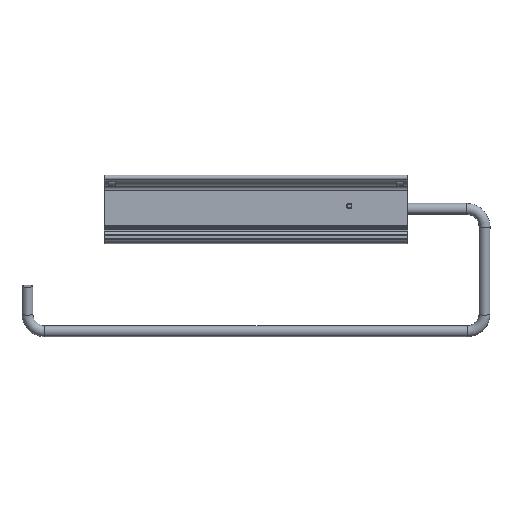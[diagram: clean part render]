
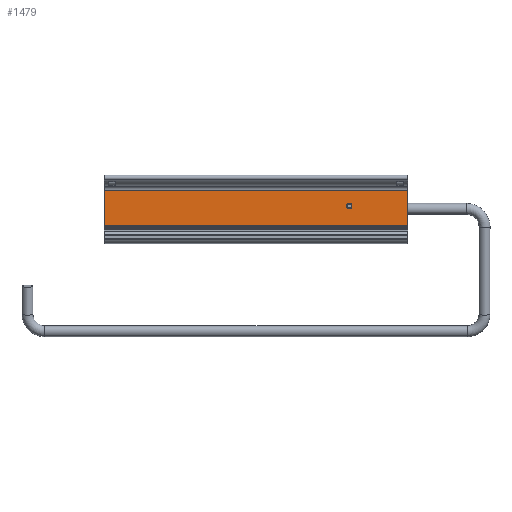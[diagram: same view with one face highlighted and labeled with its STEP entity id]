
A CAD part, left-side view. The second image highlights one B-rep face of the part: STEP entity #1479.
In plain terms, the highlighted planar face has unit normal (-1, 0, 0).
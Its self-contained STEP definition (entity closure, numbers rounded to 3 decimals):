
#55=PLANE('',#1583);
#102=LINE('',#2140,#187);
#103=LINE('',#2146,#188);
#104=LINE('',#2148,#189);
#105=LINE('',#2150,#190);
#187=VECTOR('',#1755,1000.);
#188=VECTOR('',#1762,1000.);
#189=VECTOR('',#1763,1000.);
#190=VECTOR('',#1764,1000.);
#277=CIRCLE('',#1584,1.23);
#359=ORIENTED_EDGE('',*,*,#658,.T.);
#360=ORIENTED_EDGE('',*,*,#659,.T.);
#361=ORIENTED_EDGE('',*,*,#660,.F.);
#362=ORIENTED_EDGE('',*,*,#661,.F.);
#363=ORIENTED_EDGE('',*,*,#656,.T.);
#656=EDGE_CURVE('',#805,#804,#102,.T.);
#658=EDGE_CURVE('',#806,#806,#277,.T.);
#659=EDGE_CURVE('',#804,#807,#103,.T.);
#660=EDGE_CURVE('',#808,#807,#104,.T.);
#661=EDGE_CURVE('',#805,#808,#105,.T.);
#804=VERTEX_POINT('',#2139);
#805=VERTEX_POINT('',#2141);
#806=VERTEX_POINT('',#2145);
#807=VERTEX_POINT('',#2147);
#808=VERTEX_POINT('',#2149);
#896=EDGE_LOOP('',(#359));
#897=EDGE_LOOP('',(#360,#361,#362,#363));
#985=FACE_BOUND('',#896,.T.);
#986=FACE_BOUND('',#897,.T.);
#1479=ADVANCED_FACE('',(#985,#986),#55,.F.);
#1583=AXIS2_PLACEMENT_3D('',#2143,#1758,#1759);
#1584=AXIS2_PLACEMENT_3D('',#2144,#1760,#1761);
#1755=DIRECTION('',(0.,1.,0.));
#1758=DIRECTION('',(1.,0.,0.));
#1759=DIRECTION('',(0.,0.,-1.));
#1760=DIRECTION('',(1.,0.,0.));
#1761=DIRECTION('',(0.,0.,1.));
#1762=DIRECTION('',(0.,0.,-1.));
#1763=DIRECTION('',(0.,1.,0.));
#1764=DIRECTION('',(0.,0.,-1.));
#2139=CARTESIAN_POINT('',(-0.361,83.,10.529));
#2140=CARTESIAN_POINT('',(-0.361,-83.,10.529));
#2141=CARTESIAN_POINT('',(-0.361,-83.,10.529));
#2143=CARTESIAN_POINT('',(-0.361,-83.,10.529));
#2144=CARTESIAN_POINT('',(-0.361,-51.,1.811));
#2145=CARTESIAN_POINT('',(-0.361,-51.,3.04));
#2146=CARTESIAN_POINT('',(-0.361,83.,10.529));
#2147=CARTESIAN_POINT('',(-0.361,83.,-8.893));
#2148=CARTESIAN_POINT('',(-0.361,-83.,-8.893));
#2149=CARTESIAN_POINT('',(-0.361,-83.,-8.893));
#2150=CARTESIAN_POINT('',(-0.361,-83.,10.529));
